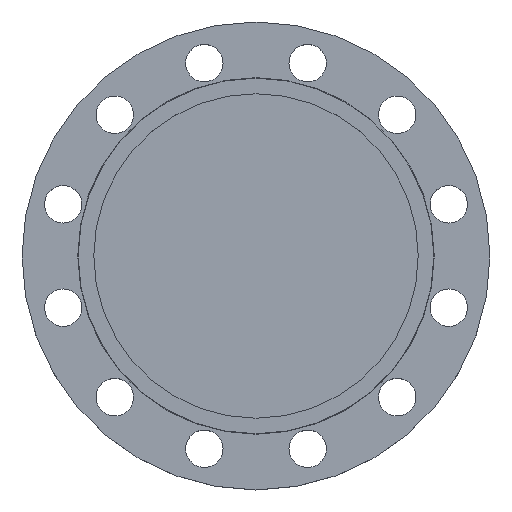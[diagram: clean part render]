
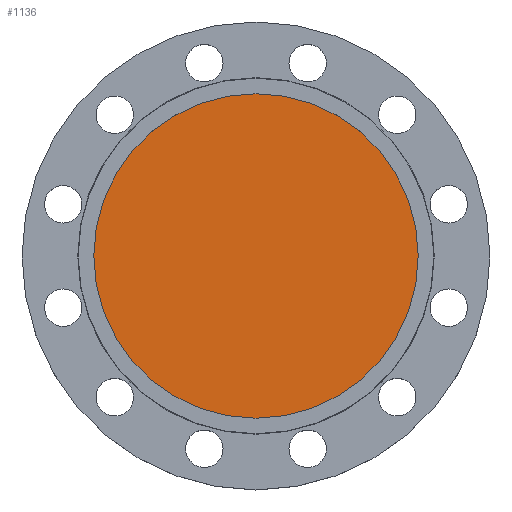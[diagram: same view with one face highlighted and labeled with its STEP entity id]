
A CAD part, top view. The second image highlights one B-rep face of the part: STEP entity #1136.
In plain terms, the highlighted planar face has unit normal (0, 0, 1).
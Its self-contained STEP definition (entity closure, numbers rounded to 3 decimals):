
#8 = CARTESIAN_POINT ( 'NONE',  ( 130., 0., -4.5 ) ) ;
#21 = DIRECTION ( 'NONE',  ( -1., 0., 0. ) ) ;
#22 = DIRECTION ( 'NONE',  ( 0., 0., -1. ) ) ;
#25 = CARTESIAN_POINT ( 'NONE',  ( 0., 0., -4.5 ) ) ;
#33 = CARTESIAN_POINT ( 'NONE',  ( -130., 0., -4.5 ) ) ;
#177 = DIRECTION ( 'NONE',  ( -1., 0., 0. ) ) ;
#178 = DIRECTION ( 'NONE',  ( 0., 0., -1. ) ) ;
#179 = CARTESIAN_POINT ( 'NONE',  ( 0., 0., -4.5 ) ) ;
#238 = DIRECTION ( 'NONE',  ( 1., 0., 0. ) ) ;
#239 = DIRECTION ( 'NONE',  ( 0., 0., 1. ) ) ;
#240 = CARTESIAN_POINT ( 'NONE',  ( 130., 0., -4.5 ) ) ;
#242 = PLANE ( 'NONE',  #884 ) ;
#243 = FACE_OUTER_BOUND ( 'NONE', #1312, .T. ) ;
#656 = AXIS2_PLACEMENT_3D ( 'NONE', #179, #178, #177 ) ;
#680 = CIRCLE ( 'NONE', #656, 130. ) ;
#884 = AXIS2_PLACEMENT_3D ( 'NONE', #240, #239, #238 ) ;
#888 = CIRCLE ( 'NONE', #891, 130. ) ;
#891 = AXIS2_PLACEMENT_3D ( 'NONE', #25, #22, #21 ) ;
#1007 = ORIENTED_EDGE ( 'NONE', *, *, #1290, .F. ) ;
#1009 = ORIENTED_EDGE ( 'NONE', *, *, #1162, .F. ) ;
#1136 = ADVANCED_FACE ( 'NONE', ( #243 ), #242, .T. ) ;
#1162 = EDGE_CURVE ( 'NONE', #1317, #1284, #680, .T. ) ;
#1284 = VERTEX_POINT ( 'NONE', #33 ) ;
#1290 = EDGE_CURVE ( 'NONE', #1284, #1317, #888, .T. ) ;
#1312 = EDGE_LOOP ( 'NONE', ( #1007, #1009 ) ) ;
#1317 = VERTEX_POINT ( 'NONE', #8 ) ;
